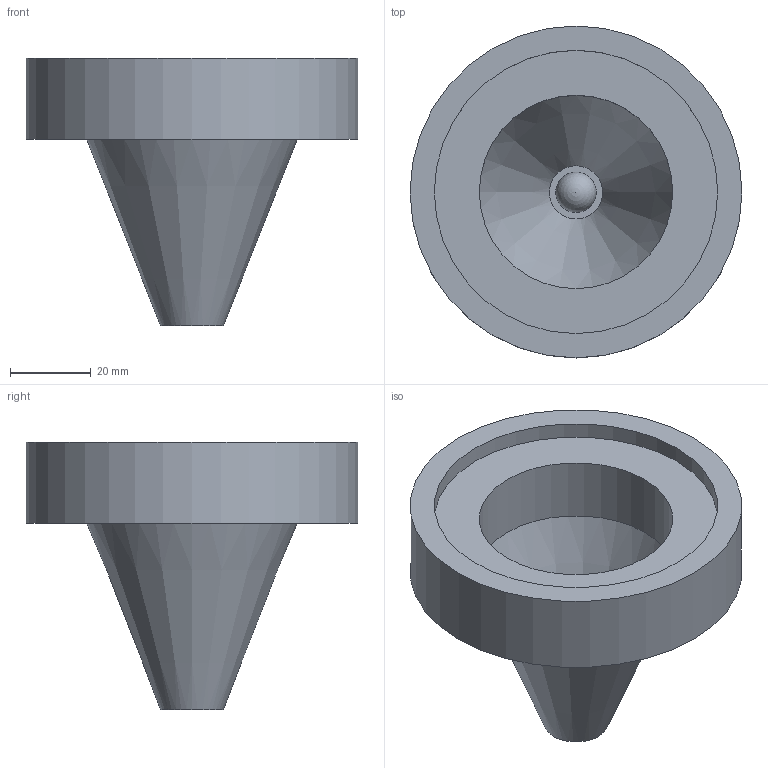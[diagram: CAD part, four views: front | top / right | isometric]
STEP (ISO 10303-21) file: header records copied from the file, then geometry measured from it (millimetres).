
FILE_DESCRIPTION(('STEP AP242'), '1');
FILE_NAME('Ëàïî÷êà', '', ('UNSPECIFIED'), ('UNSPECIFIED'), 'C3D Converter', 'C3D Toolkit', '');
FILE_SCHEMA(('AP242_MANAGED_MODEL_BASED_3D_ENGINEERING_MIM_LF { 1 0 10303 442 1 1 4 }'));
Length unit declared in the file: millimetre
Bounding box: 82 x 82 x 66 mm (x, y, z)
Volume: 51424.5 mm3; surface area: 30098.9 mm2
Topology: 1 solids, 1 shells, 15 faces, 25 edges, 15 vertices
Faces by surface type: plane 5, cylinder 5, cone 4, sphere 1
Full cylindrical faces by diameter (mm): 47.794 x1, 52 x1, 70 x2, 82 x1
Entity records: 334 total; most frequent: DIRECTION 60, CARTESIAN_POINT 44, AXIS2_PLACEMENT_3D 30, EDGE_LOOP 28, ORIENTED_EDGE 28, FACE_OUTER_BOUND 19, ADVANCED_FACE 15, EDGE_CURVE 14
